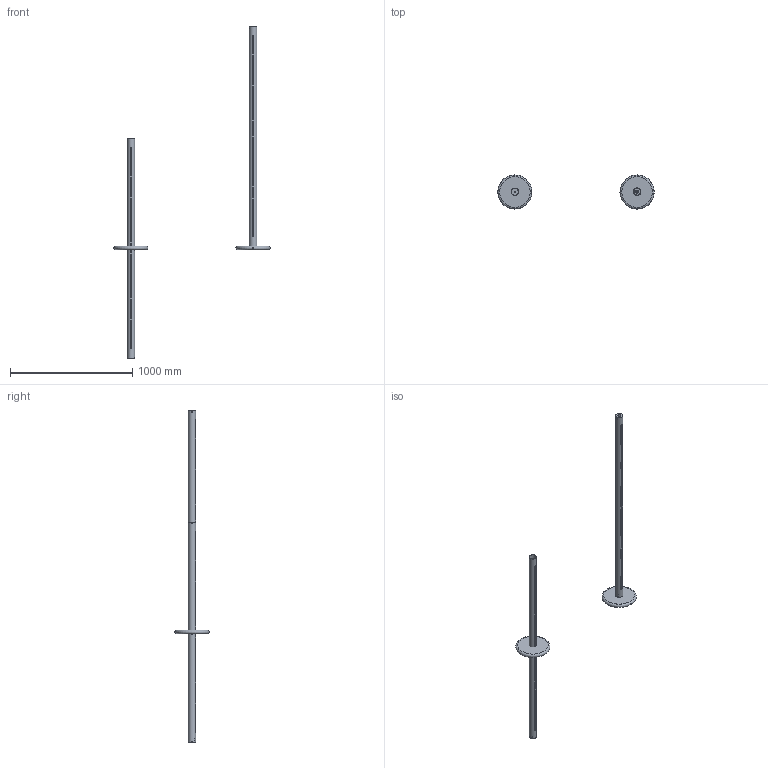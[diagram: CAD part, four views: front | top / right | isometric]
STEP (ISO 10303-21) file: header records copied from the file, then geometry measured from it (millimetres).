
FILE_DESCRIPTION( ( 'STEP AP203' ), '1' );
FILE_NAME( '//srvbf/BF Disegni/ECLISSE/ECLISSE-P Piantana 3D.stp', '2020-10-16T07:05:43', ( ' ' ), ( ' ' ), 'XStep 1.0', ' ', ' ' );
FILE_SCHEMA( ( 'CONFIG_CONTROL_DESIGN) ( )' ) );
Length unit declared in the file: metre
Products named in the file (5): Assem1; 1; 2; 3; 4
Bounding box: 1279.99 x 279.99 x 2716.5 mm (x, y, z)
Volume: 1120402.8 mm3; surface area: 1615968.7 mm2
Topology: 8 solids, 8 shells, 118 faces, 310 edges, 208 vertices
Faces by surface type: plane 82, cylinder 32, torus 4
Full cylindrical faces by diameter (mm): 3.242 x4, 4.5 x4, 8.917 x2, 10 x4, 25.8 x2, 57 x2, 60 x2, 62 x2, 250 x2
Entity records: 2342 total; most frequent: CARTESIAN_POINT 668, DIRECTION 302, ORIENTED_EDGE 266, EDGE_CURVE 133, AXIS2_PLACEMENT_3D 111, EDGE_LOOP 102, VERTEX_POINT 97, LINE 80
